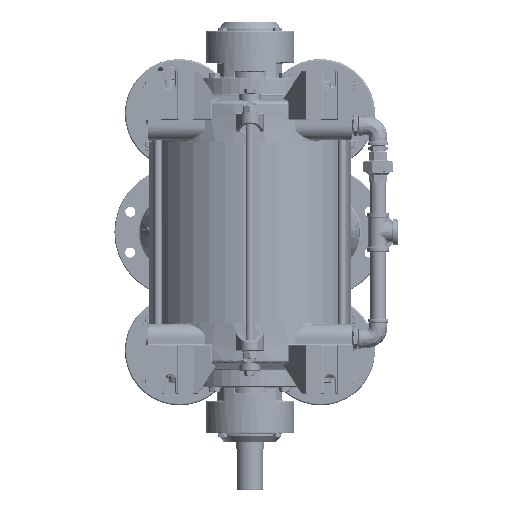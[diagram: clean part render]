
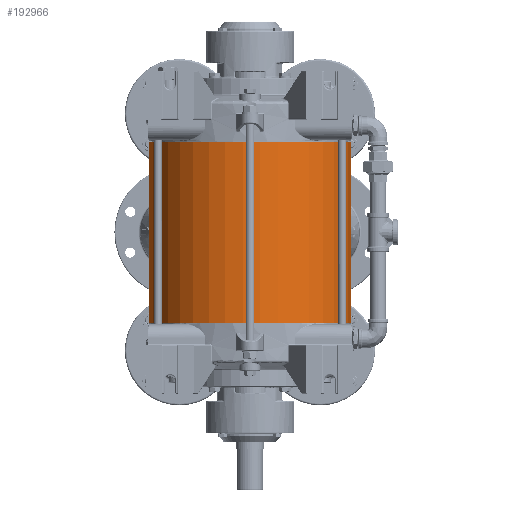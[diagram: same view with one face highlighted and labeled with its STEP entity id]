
A CAD part, front view. The second image highlights one B-rep face of the part: STEP entity #192966.
In plain terms, the highlighted cylindrical face has radius 171 mm (diameter 342 mm), a partial arc.
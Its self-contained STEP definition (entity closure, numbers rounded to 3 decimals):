
#5174 = CARTESIAN_POINT ( 'NONE',  ( 15.561, 297.25, -120.5 ) ) ;
#17914 = CARTESIAN_POINT ( 'NONE',  ( 15.561, 297.25, -426. ) ) ;
#18811 = CARTESIAN_POINT ( 'NONE',  ( -155., 309.5, -120.5 ) ) ;
#19621 = CARTESIAN_POINT ( 'NONE',  ( -325.561, 321.75, -120.5 ) ) ;
#19629 = VERTEX_POINT ( 'NONE', #203060 ) ;
#22449 = FACE_OUTER_BOUND ( 'NONE', #184877, .T. ) ;
#24947 = CARTESIAN_POINT ( 'NONE',  ( -155., 309.5, -426. ) ) ;
#28273 = VERTEX_POINT ( 'NONE', #5174 ) ;
#31546 = CARTESIAN_POINT ( 'NONE',  ( -325.561, 321.75, -426. ) ) ;
#33224 = AXIS2_PLACEMENT_3D ( 'NONE', #18811, #95989, #136431 ) ;
#35114 = CARTESIAN_POINT ( 'NONE',  ( 15.561, 297.25, -426. ) ) ;
#36348 = DIRECTION ( 'NONE',  ( 0., 0., 1. ) ) ;
#40887 = EDGE_CURVE ( 'NONE', #87097, #19629, #107532, .T. ) ;
#60828 = DIRECTION ( 'NONE',  ( -0.997, 0.072, 0. ) ) ;
#63315 = CARTESIAN_POINT ( 'NONE',  ( -155., 309.5, -426. ) ) ;
#83169 = CYLINDRICAL_SURFACE ( 'NONE', #106649, 171. ) ;
#86774 = EDGE_CURVE ( 'NONE', #28273, #97665, #243281, .T. ) ;
#87097 = VERTEX_POINT ( 'NONE', #17914 ) ;
#95989 = DIRECTION ( 'NONE',  ( 0., 0., -1. ) ) ;
#97665 = VERTEX_POINT ( 'NONE', #19621 ) ;
#106649 = AXIS2_PLACEMENT_3D ( 'NONE', #24947, #160252, #138810 ) ;
#107532 = CIRCLE ( 'NONE', #135681, 171. ) ;
#111501 = ORIENTED_EDGE ( 'NONE', *, *, #86774, .T. ) ;
#116790 = VECTOR ( 'NONE', #36348, 1000. ) ;
#121877 = ORIENTED_EDGE ( 'NONE', *, *, #216370, .T. ) ;
#121993 = VECTOR ( 'NONE', #185874, 1000. ) ;
#130494 = ORIENTED_EDGE ( 'NONE', *, *, #228731, .F. ) ;
#135681 = AXIS2_PLACEMENT_3D ( 'NONE', #63315, #140446, #60828 ) ;
#136431 = DIRECTION ( 'NONE',  ( -0.997, 0.072, 0. ) ) ;
#138810 = DIRECTION ( 'NONE',  ( 0.997, -0.072, 0. ) ) ;
#140446 = DIRECTION ( 'NONE',  ( 0., 0., -1. ) ) ;
#160252 = DIRECTION ( 'NONE',  ( 0., 0., 1. ) ) ;
#184877 = EDGE_LOOP ( 'NONE', ( #130494, #209820, #121877, #111501 ) ) ;
#185874 = DIRECTION ( 'NONE',  ( 0., 0., 1. ) ) ;
#192966 = ADVANCED_FACE ( 'NONE', ( #22449 ), #83169, .T. ) ;
#203060 = CARTESIAN_POINT ( 'NONE',  ( -325.561, 321.75, -426. ) ) ;
#204865 = LINE ( 'NONE', #31546, #121993 ) ;
#209820 = ORIENTED_EDGE ( 'NONE', *, *, #40887, .F. ) ;
#216370 = EDGE_CURVE ( 'NONE', #87097, #28273, #247681, .T. ) ;
#228731 = EDGE_CURVE ( 'NONE', #19629, #97665, #204865, .T. ) ;
#243281 = CIRCLE ( 'NONE', #33224, 171. ) ;
#247681 = LINE ( 'NONE', #35114, #116790 ) ;
